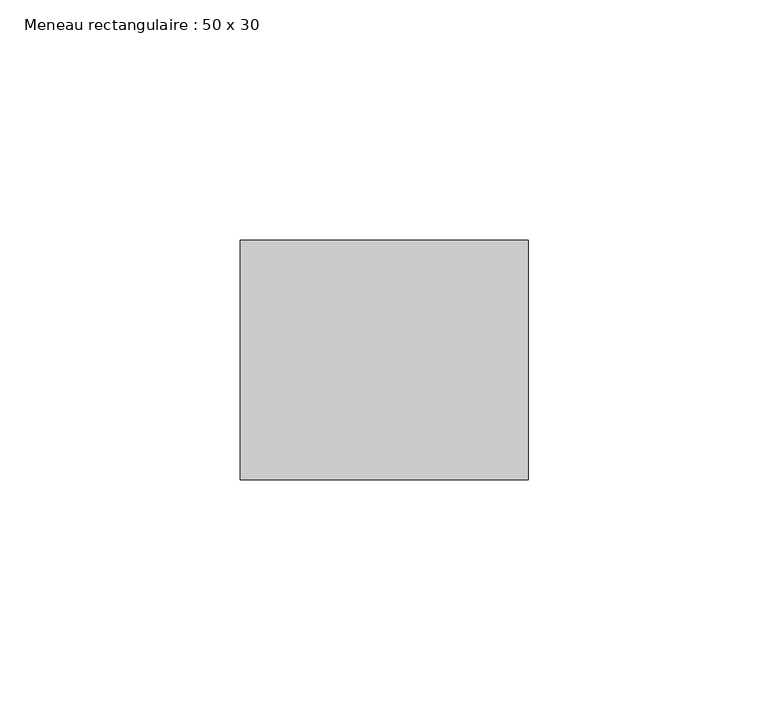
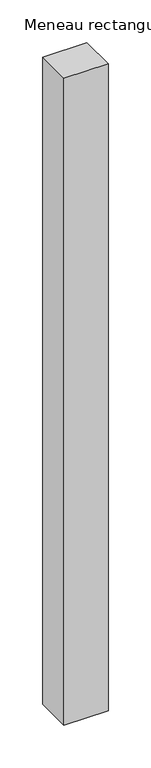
"""IFC4 building model written with IfcOpenShell, lengths in millimetres: member geometry, Meneau rectangulaire : 50 x 30."""

from ifc_helpers import new_model, si_unit, frame, origin, place, context, project, spatial, polyline, outline, extrude, source, transform, mapped, element, save


def meneau_rectangulaire_50_x_30_d02f9224(model_context):
    return source(origin(), model_context, "Body", "SweptSolid", [
        extrude(outline(polyline([(30.0, 0.0), (30.0, -50.0), (-30.0, -50.0), (-30.0, 0.0), (30.0, 0.0)])), frame((0.0, 0.0, -926.0), z_axis=(0.0, 0.0, 1.0), x_axis=(1.0, 0.0, 0.0)), (0.0, 0.0, 1.0), 926.0),
    ])


if __name__ == "__main__":
    model = new_model("IFC4")
    model_context = context("Model", 3, world=origin())
    ifc_project = project(units=[si_unit("LENGTHUNIT", "METRE", prefix="MILLI")], contexts=[model_context])
    site = spatial("IfcSite", under=ifc_project)
    building = spatial("IfcBuilding", under=site)
    placement = place(None, origin())
    meneau_rectangulaire_50_x_30_shape = meneau_rectangulaire_50_x_30_d02f9224(model_context)
    element("IfcMember", 1, ObjectType="Meneau rectangulaire : 50 x 30", at=placement, inside=building, context=model_context, shape_type="MappedRepresentation", body=[
        mapped(meneau_rectangulaire_50_x_30_shape, transform((0.0, 0.0, 0.0), x_axis=(1.0, 0.0, 0.0), y_axis=(0.0, 1.0, 0.0), z_axis=(0.0, 0.0, 1.0))),
    ])
    save(model, "model.ifc")
